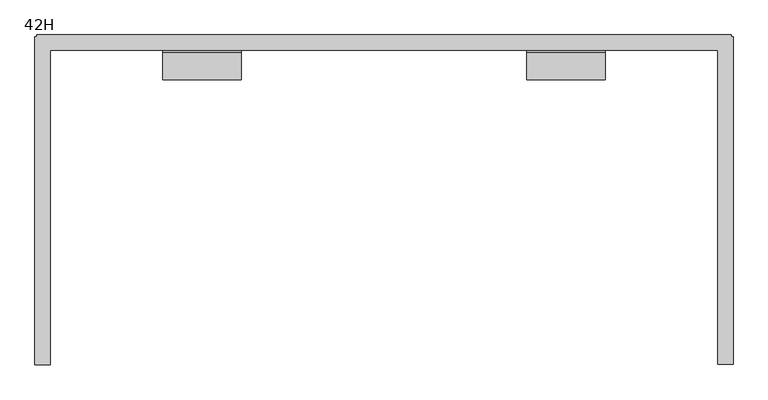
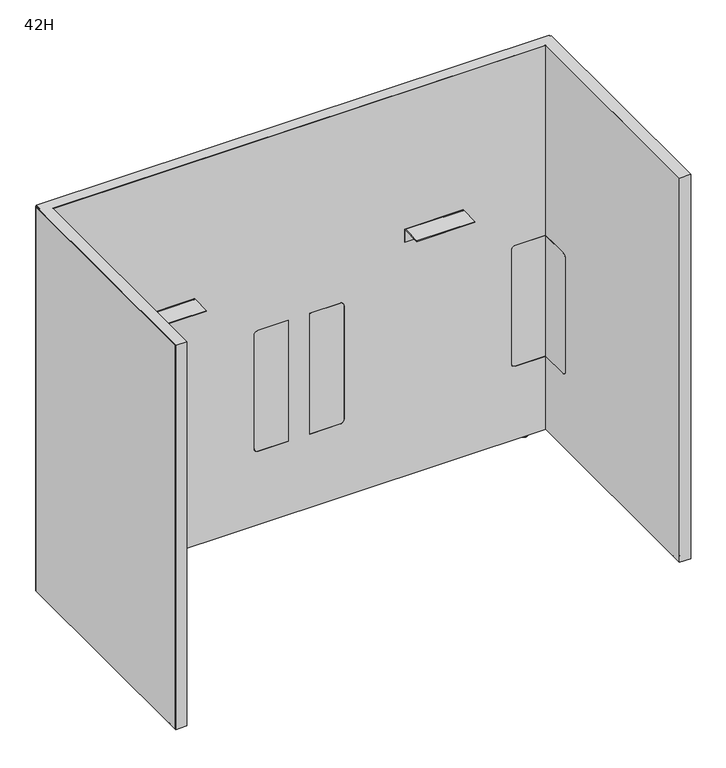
"""IFC4 building model written with IfcOpenShell, lengths in millimetres: furniture geometry, Steelcase - Answer Solution - Boundary Screen - L Return - Split : 42H."""

from ifc_helpers import new_model, si_unit, point, frame, frame_2d, origin, place, context, project, spatial, polyline, circle_curve, ellipse_curve, trimmed, segment, composite_curve, outline, extrude, faceted_brep, source, transform, mapped, element, save
from ifc_brep_helpers import plane_surface, cylinder_surface, revolved_surface, advanced_brep


def furniture_42h_03005b01(model_context):
    return source(origin(), model_context, "Body", "SolidModel", [
        extrude(outline(composite_curve([segment(polyline([(-109.3501471, 549.6162029), (-29.0550397, 549.6162029), (-29.0550397, 213.7762137), (-109.3501471, 213.7762137)]), True, "CONTINUOUS"), segment(trimmed(circle_curve(frame_2d((-109.3501471, 223.9362137)), 10.16), [point((-109.3501471, 213.7762137))], [point((-119.5101471, 223.9362137))], False, "CARTESIAN"), True, "CONTINUOUS"), segment(polyline([(-119.5101471, 223.9362137), (-119.5101471, 539.4562029)]), True, "CONTINUOUS"), segment(trimmed(circle_curve(frame_2d((-109.3501471, 539.4562029)), 10.16), [point((-119.5101471, 539.4562029))], [point((-109.3501471, 549.6162029))], False, "CARTESIAN"), True, "CONTINUOUS")], self_intersect=False)), frame((-418.5209652, 0.0, 0.0), z_axis=(1.0, 0.0, 0.0), x_axis=(0.0, 1.0, 0.0)), (0.0, 0.0, 1.0), 0.6401544),
        extrude(outline(composite_curve([segment(polyline([(-109.3501471, 549.6162029), (-29.0550397, 549.6162029), (-29.0550397, 213.7762137), (-109.3501471, 213.7762137)]), True, "CONTINUOUS"), segment(trimmed(circle_curve(frame_2d((-109.3501471, 223.9362137)), 10.16), [point((-109.3501471, 213.7762137))], [point((-119.5101471, 223.9362137))], False, "CARTESIAN"), True, "CONTINUOUS"), segment(polyline([(-119.5101471, 223.9362137), (-119.5101471, 539.4562029)]), True, "CONTINUOUS"), segment(trimmed(circle_curve(frame_2d((-109.3501471, 539.4562029)), 10.16), [point((-119.5101471, 539.4562029))], [point((-109.3501471, 549.6162029))], False, "CARTESIAN"), True, "CONTINUOUS")], self_intersect=False)), frame((877.5191891, 0.0, 0.0), z_axis=(1.0, 0.0, 0.0), x_axis=(0.0, 1.0, 0.0)), (0.0, 0.0, 1.0), 0.6401544),
        advanced_brep(
        [(892.3672074, -600.4136072, 0.0), (899.3216144, -600.4136072, 0.0), (885.4128003, -600.4136072, 0.0), (900.7762685, -600.4136072, 1.2700001), (883.9581463, -600.4136072, 1.2700001), (900.7762685, -600.4136072, 2.9673238), (883.9581463, -600.4136072, 2.9673238), (901.7427877, -600.4136072, 2.9673238), (882.991627, -600.4136072, 2.9673238), (901.7427877, -600.4136072, 9.9059849), (882.991627, -600.4136072, 9.9059849), (892.3672074, -600.4136072, 9.9059849)],
        [
            (0, 1),
            (1, 2, circle_curve(frame((892.3672074, -600.4136072, 0.0), z_axis=(0.0, 0.0, -1.0), x_axis=(1.0, 0.0, 0.0)), 6.9544071)),
            (2, 0),
            (2, 1, circle_curve(frame((892.3672074, -600.4136072, 0.0), z_axis=(0.0, 0.0, -1.0), x_axis=(1.0, 0.0, 0.0)), 6.9544071)),
            (1, 3, circle_curve(frame((899.4945484, -600.4136072, 1.2700001), z_axis=(0.0, -1.0, 0.0), x_axis=(0.0, 0.0, 1.0)), 1.2817201)),
            (3, 4, circle_curve(frame((892.3672074, -600.4136072, 1.2700001), z_axis=(0.0, 0.0, -1.0), x_axis=(1.0, 0.0, 0.0)), 8.4090611)),
            (4, 2, circle_curve(frame((885.2398663, -600.4136072, 1.2700001), z_axis=(0.0, -1.0, 0.0), x_axis=(0.0, 0.0, 1.0)), 1.2817201)),
            (4, 3, circle_curve(frame((892.3672074, -600.4136072, 1.2700001), z_axis=(0.0, 0.0, -1.0), x_axis=(1.0, 0.0, 0.0)), 8.4090611)),
            (3, 5),
            (5, 6, circle_curve(frame((892.3672074, -600.4136072, 2.9673238), z_axis=(0.0, 0.0, -1.0), x_axis=(1.0, 0.0, 0.0)), 8.4090611)),
            (6, 4),
            (6, 5, circle_curve(frame((892.3672074, -600.4136072, 2.9673238), z_axis=(0.0, 0.0, -1.0), x_axis=(1.0, 0.0, 0.0)), 8.4090611)),
            (5, 7),
            (7, 8, circle_curve(frame((892.3672074, -600.4136072, 2.9673238), z_axis=(0.0, 0.0, -1.0), x_axis=(1.0, 0.0, 0.0)), 9.3755804)),
            (8, 6),
            (8, 7, circle_curve(frame((892.3672074, -600.4136072, 2.9673238), z_axis=(0.0, 0.0, -1.0), x_axis=(1.0, 0.0, 0.0)), 9.3755804)),
            (7, 9),
            (9, 10, circle_curve(frame((892.3672074, -600.4136072, 9.9059849), z_axis=(0.0, 0.0, -1.0), x_axis=(1.0, 0.0, 0.0)), 9.3755804)),
            (10, 8),
            (10, 9, circle_curve(frame((892.3672074, -600.4136072, 9.9059849), z_axis=(0.0, 0.0, -1.0), x_axis=(1.0, 0.0, 0.0)), 9.3755804)),
            (9, 11),
            (11, 10),
        ],
        [
            plane_surface(frame((892.3672074, -600.4136072, 0.0), z_axis=(0.0, 0.0, -1.0), x_axis=(1.0, 0.0, 0.0))),
            revolved_surface(trimmed(ellipse_curve(frame((899.4945484, -600.4136072, 1.2700001), z_axis=(0.0, 1.0, 0.0), x_axis=(0.0, 0.0, 1.0)), 1.2817201, 1.2817201), [point((900.7762685, -600.4136072, 1.2700001))], [point((899.3216144, -600.4136072, 0.0))], True, "CARTESIAN"), (892.3672074, -600.4136072, 9.9059849), (0.0, 0.0, -1.0)),
            cylinder_surface(frame((892.3672074, -600.4136072, 9.9059849), z_axis=(0.0, 0.0, -1.0), x_axis=(1.0, 0.0, 0.0)), 8.4090611),
            plane_surface(frame((892.3672074, -600.4136072, 2.9673238), z_axis=(0.0, 0.0, -1.0), x_axis=(1.0, 0.0, 0.0))),
            cylinder_surface(frame((892.3672074, -600.4136072, 9.9059849), z_axis=(0.0, 0.0, -1.0), x_axis=(1.0, 0.0, 0.0)), 9.3755804),
            plane_surface(frame((892.3672074, -600.4136072, 9.9059849), z_axis=(0.0, 0.0, 1.0), x_axis=(1.0, 0.0, 0.0))),
        ],
        [
            (0, [[1, 2, 3]]),
            (0, [[-3, 4, -1]]),
            (1, [[-2, 5, 6, 7]]),
            (1, [[-4, -7, 8, -5]]),
            (2, [[-6, 9, 10, 11]]),
            (2, [[-8, -11, 12, -9]]),
            (3, [[-10, 13, 14, 15]]),
            (3, [[-12, -15, 16, -13]]),
            (4, [[-14, 17, 18, 19]]),
            (4, [[-16, -19, 20, -17]]),
            (5, [[-18, 21, 22]]),
            (5, [[-20, -22, -21]]),
        ],
    ),
        advanced_brep(
        [(-425.774422, -601.4042444, 0.0), (-439.6832361, -601.4042444, 0.0), (-432.7288291, -601.4042444, 0.0), (-424.319768, -601.4042444, 1.2700001), (-441.1378902, -601.4042444, 1.2700001), (-424.319768, -601.4042444, 2.9673238), (-441.1378902, -601.4042444, 2.9673238), (-423.3532487, -601.4042444, 2.9673238), (-442.1044095, -601.4042444, 2.9673238), (-423.3532487, -601.4042444, 9.9059849), (-442.1044095, -601.4042444, 9.9059849), (-432.7288291, -601.4042444, 9.9059849)],
        [
            (0, 1, circle_curve(frame((-432.7288291, -601.4042444, 0.0), z_axis=(0.0, 0.0, -1.0), x_axis=(-1.0, 0.0, 0.0)), 6.9544071)),
            (1, 2),
            (2, 0),
            (1, 0, circle_curve(frame((-432.7288291, -601.4042444, 0.0), z_axis=(0.0, 0.0, -1.0), x_axis=(-1.0, 0.0, 0.0)), 6.9544071)),
            (3, 4, circle_curve(frame((-432.7288291, -601.4042444, 1.2700001), z_axis=(0.0, 0.0, -1.0), x_axis=(-1.0, 0.0, 0.0)), 8.4090611)),
            (4, 1, circle_curve(frame((-439.8561701, -601.4042444, 1.2700001), z_axis=(0.0, -1.0, 0.0), x_axis=(0.0, 0.0, 1.0)), 1.2817201)),
            (0, 3, circle_curve(frame((-425.6014881, -601.4042444, 1.2700001), z_axis=(0.0, -1.0, 0.0), x_axis=(0.0, 0.0, 1.0)), 1.2817201)),
            (4, 3, circle_curve(frame((-432.7288291, -601.4042444, 1.2700001), z_axis=(0.0, 0.0, -1.0), x_axis=(-1.0, 0.0, 0.0)), 8.4090611)),
            (5, 6, circle_curve(frame((-432.7288291, -601.4042444, 2.9673238), z_axis=(0.0, 0.0, -1.0), x_axis=(-1.0, 0.0, 0.0)), 8.4090611)),
            (6, 4),
            (3, 5),
            (6, 5, circle_curve(frame((-432.7288291, -601.4042444, 2.9673238), z_axis=(0.0, 0.0, -1.0), x_axis=(-1.0, 0.0, 0.0)), 8.4090611)),
            (7, 8, circle_curve(frame((-432.7288291, -601.4042444, 2.9673238), z_axis=(0.0, 0.0, -1.0), x_axis=(-1.0, 0.0, 0.0)), 9.3755804)),
            (8, 6),
            (5, 7),
            (8, 7, circle_curve(frame((-432.7288291, -601.4042444, 2.9673238), z_axis=(0.0, 0.0, -1.0), x_axis=(-1.0, 0.0, 0.0)), 9.3755804)),
            (9, 10, circle_curve(frame((-432.7288291, -601.4042444, 9.9059849), z_axis=(0.0, 0.0, -1.0), x_axis=(-1.0, 0.0, 0.0)), 9.3755804)),
            (10, 8),
            (7, 9),
            (10, 9, circle_curve(frame((-432.7288291, -601.4042444, 9.9059849), z_axis=(0.0, 0.0, -1.0), x_axis=(-1.0, 0.0, 0.0)), 9.3755804)),
            (11, 10),
            (9, 11),
        ],
        [
            plane_surface(frame((-432.7288291, -601.4042444, 0.0), z_axis=(0.0, 0.0, -1.0), x_axis=(-1.0, 0.0, 0.0))),
            revolved_surface(trimmed(ellipse_curve(frame((-439.8561701, -601.4042444, 1.2700001), z_axis=(0.0, 1.0, 0.0), x_axis=(0.0, 0.0, 1.0)), 1.2817201, 1.2817201), [point((-439.6832361, -601.4042444, 0.0))], [point((-441.1378902, -601.4042444, 1.2700001))], True, "CARTESIAN"), (-432.7288291, -601.4042444, 9.9059849), (0.0, 0.0, 1.0)),
            cylinder_surface(frame((-432.7288291, -601.4042444, 9.9059849), z_axis=(0.0, 0.0, 1.0), x_axis=(-1.0, 0.0, 0.0)), 8.4090611),
            plane_surface(frame((-432.7288291, -601.4042444, 2.9673238), z_axis=(0.0, 0.0, -1.0), x_axis=(-1.0, 0.0, 0.0))),
            cylinder_surface(frame((-432.7288291, -601.4042444, 9.9059849), z_axis=(0.0, 0.0, 1.0), x_axis=(-1.0, 0.0, 0.0)), 9.3755804),
            plane_surface(frame((-432.7288291, -601.4042444, 9.9059849), z_axis=(0.0, 0.0, 1.0), x_axis=(-1.0, 0.0, 0.0))),
        ],
        [
            (0, [[1, 2, 3]]),
            (0, [[4, -3, -2]]),
            (1, [[5, 6, -1, 7]]),
            (1, [[8, -7, -4, -6]]),
            (2, [[9, 10, -5, 11]]),
            (2, [[12, -11, -8, -10]]),
            (3, [[13, 14, -9, 15]]),
            (3, [[16, -15, -12, -14]]),
            (4, [[17, 18, -13, 19]]),
            (4, [[20, -19, -16, -18]]),
            (5, [[21, -17, 22]]),
            (5, [[-22, -20, -21]]),
        ],
    ),
        faceted_brep([(903.9531179, 0.0, 1077.722), (903.9531179, 0.0, 9.9059849), (902.9621491, 0.0, 9.9059849), (902.9621491, 0.0, 1076.742118), (-443.3237709, 0.0, 1076.742118), (-443.3237709, 0.0, 9.9059849), (-444.3147397, 0.0, 9.9059849), (-444.3147397, 0.0, 1077.722), (-444.3147397, -29.6898332, 9.9059849), (-443.3237709, -29.6898332, 9.9059849), (-443.3237709, -29.6898332, 1076.742118), (-444.3147397, -29.6898332, 1076.742118), (902.9621491, -29.6898332, 1076.742118), (902.9621491, -29.6898332, 9.9059849), (903.9531179, -29.6898332, 9.9059849), (903.9531179, -29.6898332, 1076.742118), (-417.8808109, -29.6898332, 1077.722), (-417.8808109, -29.6898332, 1076.742118), (877.5191891, -29.6898332, 1076.742118), (877.5191891, -29.6898332, 1077.722), (903.9531179, -3.2625916, 1077.722), (903.9531179, -3.2625916, 9.9059849), (903.9531179, -4.252647, 9.9059849), (903.9531179, -4.252647, 1076.742118), (907.2152256, -3.2625916, 9.9059849), (907.2152256, -4.252647, 9.9059849), (902.9621491, -4.252647, 9.9059849), (877.5191891, -4.252647, 9.9059849), (877.5191891, -3.2625916, 9.9059849), (902.9621491, -3.2625916, 9.9059849), (-444.3147397, -3.2625916, 9.9059849), (-444.3147397, -3.2625916, 1077.722), (-444.3147397, -4.252647, 1076.742118), (-444.3147397, -4.252647, 9.9059849), (-447.5768473, -3.2625916, 1077.722), (-447.5768473, -640.2804704, 1077.722), (-417.8808109, -640.2804704, 1077.722), (877.5191891, -639.2898332, 1077.722), (907.2152256, -639.2898332, 1077.722), (907.2152256, -3.2625916, 1077.722), (902.9621491, -3.2625916, 1076.742118), (902.9621491, -4.252647, 1076.742118), (877.5191891, -3.2625916, 1076.742118), (877.5191891, -4.252647, 1076.742118), (907.2152256, -4.252647, 1076.742118), (907.2152256, -638.299196, 1076.742118), (877.5191891, -638.299196, 1076.742118), (-417.8808109, -639.2898332, 1076.742118), (-447.5768473, -639.2898332, 1076.742118), (-447.5768473, -4.252647, 1076.742118), (-443.3237709, -4.252647, 1076.742118), (-417.8808109, -4.252647, 1076.742118), (-417.8808109, -3.2625916, 1076.742118), (-443.3237709, -3.2625916, 1076.742118), (-443.3237709, -3.2625916, 9.9059849), (-443.3237709, -4.252647, 9.9059849), (-417.8808109, -3.2625916, 9.9059849), (-417.8808109, -4.252647, 9.9059849), (-447.5768473, -4.252647, 9.9059849), (-447.5768473, -3.2625916, 9.9059849), (-417.8808109, -640.2804704, 9.9059849), (-417.8808109, -639.2898332, 9.9059849), (-447.5768473, -639.2898332, 9.9059849), (-447.5768473, -640.2804704, 9.9059849), (877.5191891, -638.299196, 9.9059849), (877.5191891, -639.2898332, 9.9059849), (907.2152256, -639.2898332, 9.9059849), (907.2152256, -638.299196, 9.9059849)], [[[0, 1, 2, 3, 4, 5, 6, 7]], [[8, 9, 10, 11]], [[12, 13, 14, 15]], [[16, 17, 18, 19]], [[1, 0, 20, 21]], [[15, 14, 22, 23]], [[2, 1, 21, 24, 25, 22, 14, 13, 26, 27, 28, 29]], [[7, 6, 30, 31]], [[8, 11, 32, 33]], [[0, 7, 31, 34, 35, 36, 16, 19, 37, 38, 39, 20]], [[3, 2, 29, 40]], [[13, 12, 41, 26]], [[4, 3, 40, 42, 43, 41, 12, 15, 23, 44, 45, 46, 18, 17, 47, 48, 49, 32, 11, 10, 50, 51, 52, 53]], [[5, 4, 53, 54]], [[10, 9, 55, 50]], [[6, 5, 54, 56, 57, 55, 9, 8, 33, 58, 59, 30]], [[36, 60, 61, 47, 17, 16]], [[51, 57, 56, 52]], [[35, 34, 59, 58, 49, 48, 62, 63]], [[56, 54, 53, 52]], [[59, 34, 31, 30]], [[57, 51, 50, 55]], [[49, 58, 33, 32]], [[47, 61, 62, 48]], [[61, 60, 63, 62]], [[60, 36, 35, 63]], [[28, 27, 43, 42]], [[46, 64, 65, 37, 19, 18]], [[38, 66, 67, 45, 44, 25, 24, 39]], [[29, 28, 42, 40]], [[39, 24, 21, 20]], [[43, 27, 26, 41]], [[25, 44, 23, 22]], [[64, 46, 45, 67]], [[65, 64, 67, 66]], [[37, 65, 66, 38]]]),
        advanced_brep(
        [(-370.386307, -14.8449166, 9.9059849), (-370.386307, -5.9309607, 9.9059849), (-370.386307, -23.7588726, 9.9059849), (-370.386307, -5.9309607, 2.9673238), (-370.386307, -23.7588726, 2.9673238), (-370.386307, -6.8982978, 2.9673238), (-370.386307, -22.7915354, 2.9673238), (-370.386307, -6.8982978, 1.6569081), (-370.386307, -22.7915354, 1.6569081), (-370.386307, -8.5552059, 0.0), (-370.386307, -21.1346274, 0.0), (-370.386307, -14.8449166, 0.0)],
        [
            (0, 1),
            (1, 2, circle_curve(frame((-370.386307, -14.8449166, 9.9059849), z_axis=(0.0, 0.0, 1.0), x_axis=(0.0, 1.0, 0.0)), 8.913956)),
            (2, 0),
            (2, 1, circle_curve(frame((-370.386307, -14.8449166, 9.9059849), z_axis=(0.0, 0.0, 1.0), x_axis=(0.0, 1.0, 0.0)), 8.913956)),
            (1, 3),
            (3, 4, circle_curve(frame((-370.386307, -14.8449166, 2.9673238), z_axis=(0.0, 0.0, 1.0), x_axis=(0.0, 1.0, 0.0)), 8.913956)),
            (4, 2),
            (4, 3, circle_curve(frame((-370.386307, -14.8449166, 2.9673238), z_axis=(0.0, 0.0, 1.0), x_axis=(0.0, 1.0, 0.0)), 8.913956)),
            (3, 5),
            (5, 6, circle_curve(frame((-370.386307, -14.8449166, 2.9673238), z_axis=(0.0, 0.0, 1.0), x_axis=(0.0, 1.0, 0.0)), 7.9466188)),
            (6, 4),
            (6, 5, circle_curve(frame((-370.386307, -14.8449166, 2.9673238), z_axis=(0.0, 0.0, 1.0), x_axis=(0.0, 1.0, 0.0)), 7.9466188)),
            (5, 7),
            (7, 8, circle_curve(frame((-370.386307, -14.8449166, 1.6569081), z_axis=(0.0, 0.0, 1.0), x_axis=(0.0, 1.0, 0.0)), 7.9466188)),
            (8, 6),
            (8, 7, circle_curve(frame((-370.386307, -14.8449166, 1.6569081), z_axis=(0.0, 0.0, 1.0), x_axis=(0.0, 1.0, 0.0)), 7.9466188)),
            (7, 9, circle_curve(frame((-370.386307, -8.5552059, 1.6569081), z_axis=(-1.0, 0.0, 0.0), x_axis=(0.0, 1.0, 0.0)), 1.6569081)),
            (9, 10, circle_curve(frame((-370.386307, -14.8449166, 0.0), z_axis=(0.0, 0.0, 1.0), x_axis=(0.0, 1.0, 0.0)), 6.2897107)),
            (10, 8, circle_curve(frame((-370.386307, -21.1346274, 1.6569081), z_axis=(-1.0, 0.0, 0.0), x_axis=(0.0, -1.0, 0.0)), 1.6569081)),
            (10, 9, circle_curve(frame((-370.386307, -14.8449166, 0.0), z_axis=(0.0, 0.0, 1.0), x_axis=(0.0, 1.0, 0.0)), 6.2897107)),
            (9, 11),
            (11, 10),
        ],
        [
            plane_surface(frame((-370.386307, -14.8449166, 9.9059849), z_axis=(0.0, 0.0, 1.0), x_axis=(0.0, 1.0, 0.0))),
            cylinder_surface(frame((-370.386307, -14.8449166, 9.9059849), z_axis=(0.0, 0.0, 1.0), x_axis=(0.0, 1.0, 0.0)), 8.913956),
            plane_surface(frame((-370.386307, -14.8449166, 2.9673238), z_axis=(0.0, 0.0, -1.0), x_axis=(0.0, 1.0, 0.0))),
            cylinder_surface(frame((-370.386307, -14.8449166, 9.9059849), z_axis=(0.0, 0.0, 1.0), x_axis=(0.0, 1.0, 0.0)), 7.9466188),
            revolved_surface(trimmed(ellipse_curve(frame((-370.386307, -8.5552059, 1.6569081), z_axis=(1.0, 0.0, 0.0), x_axis=(0.0, 1.0, 0.0)), 1.6569081, 1.6569081), [point((-370.386307, -8.5552059, 0.0))], [point((-370.386307, -6.8982978, 1.6569081))], True, "CARTESIAN"), (-370.386307, -14.8449166, 9.9059849), (0.0, 0.0, 1.0)),
            plane_surface(frame((-370.386307, -14.8449166, 0.0), z_axis=(0.0, 0.0, -1.0), x_axis=(0.0, 1.0, 0.0))),
        ],
        [
            (0, [[1, 2, 3]]),
            (0, [[-3, 4, -1]]),
            (1, [[-2, 5, 6, 7]]),
            (1, [[-4, -7, 8, -5]]),
            (2, [[-6, 9, 10, 11]]),
            (2, [[-8, -11, 12, -9]]),
            (3, [[-10, 13, 14, 15]]),
            (3, [[-12, -15, 16, -13]]),
            (4, [[-14, 17, 18, 19]]),
            (4, [[-16, -19, 20, -17]]),
            (5, [[-18, 21, 22]]),
            (5, [[-20, -22, -21]]),
        ],
    ),
        extrude(outline(composite_curve([segment(polyline([(-86.8398151, 696.4680019), (-86.8398151, 698.5), (-34.9450855, 698.5)]), True, "CONTINUOUS"), segment(trimmed(circle_curve(frame_2d((-34.9450855, 693.2447477)), 5.2552523), [point((-34.9450855, 698.5))], [point((-29.6898332, 693.2447477))], False, "CARTESIAN"), True, "CONTINUOUS"), segment(polyline([(-29.6898332, 693.2447477), (-29.6898332, 660.4), (-31.7218162, 660.4), (-31.7218162, 693.0058743)]), True, "CONTINUOUS"), segment(trimmed(circle_curve(frame_2d((-35.1839438, 693.0058743)), 3.4621276), [point((-31.7218162, 693.0058743))], [point((-35.1839438, 696.4680019))], True, "CARTESIAN"), True, "CONTINUOUS"), segment(polyline([(-35.1839438, 696.4680019), (-86.8398151, 696.4680019)]), True, "CONTINUOUS")], self_intersect=False)), frame((506.4762371, 0.0, 0.0), z_axis=(1.0, 0.0, 0.0), x_axis=(0.0, 1.0, 0.0)), (0.0, 0.0, 1.0), 152.4000969),
        extrude(outline(composite_curve([segment(polyline([(-86.8398151, 696.4680019), (-86.8398151, 698.5), (-34.9450855, 698.5)]), True, "CONTINUOUS"), segment(trimmed(circle_curve(frame_2d((-34.9450855, 693.2447477)), 5.2552523), [point((-34.9450855, 698.5))], [point((-29.6898332, 693.2447477))], False, "CARTESIAN"), True, "CONTINUOUS"), segment(polyline([(-29.6898332, 693.2447477), (-29.6898332, 660.4), (-31.7218162, 660.4), (-31.7218162, 693.0058743)]), True, "CONTINUOUS"), segment(trimmed(circle_curve(frame_2d((-35.1839438, 693.0058743)), 3.4621276), [point((-31.7218162, 693.0058743))], [point((-35.1839438, 696.4680019))], True, "CARTESIAN"), True, "CONTINUOUS"), segment(polyline([(-35.1839438, 696.4680019), (-86.8398151, 696.4680019)]), True, "CONTINUOUS")], self_intersect=False)), frame((-199.2364763, 0.0, 0.0), z_axis=(1.0, 0.0, 0.0), x_axis=(0.0, 1.0, 0.0)), (0.0, 0.0, 1.0), 152.4000969),
        advanced_brep(
        [(830.0246853, -23.7588726, 9.9059849), (830.0246853, -5.9309607, 9.9059849), (830.0246853, -14.8449166, 9.9059849), (830.0246853, -23.7588726, 2.9673238), (830.0246853, -5.9309607, 2.9673238), (830.0246853, -22.7915354, 2.9673238), (830.0246853, -6.8982978, 2.9673238), (830.0246853, -22.7915354, 1.6569081), (830.0246853, -6.8982978, 1.6569081), (830.0246853, -21.1346274, 0.0), (830.0246853, -8.5552059, 0.0), (830.0246853, -14.8449166, 0.0)],
        [
            (0, 1, circle_curve(frame((830.0246853, -14.8449166, 9.9059849), z_axis=(0.0, 0.0, 1.0), x_axis=(0.0, 1.0, 0.0)), 8.913956)),
            (1, 2),
            (2, 0),
            (1, 0, circle_curve(frame((830.0246853, -14.8449166, 9.9059849), z_axis=(0.0, 0.0, 1.0), x_axis=(0.0, 1.0, 0.0)), 8.913956)),
            (3, 4, circle_curve(frame((830.0246853, -14.8449166, 2.9673238), z_axis=(0.0, 0.0, 1.0), x_axis=(0.0, 1.0, 0.0)), 8.913956)),
            (4, 1),
            (0, 3),
            (4, 3, circle_curve(frame((830.0246853, -14.8449166, 2.9673238), z_axis=(0.0, 0.0, 1.0), x_axis=(0.0, 1.0, 0.0)), 8.913956)),
            (5, 6, circle_curve(frame((830.0246853, -14.8449166, 2.9673238), z_axis=(0.0, 0.0, 1.0), x_axis=(0.0, 1.0, 0.0)), 7.9466188)),
            (6, 4),
            (3, 5),
            (6, 5, circle_curve(frame((830.0246853, -14.8449166, 2.9673238), z_axis=(0.0, 0.0, 1.0), x_axis=(0.0, 1.0, 0.0)), 7.9466188)),
            (7, 8, circle_curve(frame((830.0246853, -14.8449166, 1.6569081), z_axis=(0.0, 0.0, 1.0), x_axis=(0.0, 1.0, 0.0)), 7.9466188)),
            (8, 6),
            (5, 7),
            (8, 7, circle_curve(frame((830.0246853, -14.8449166, 1.6569081), z_axis=(0.0, 0.0, 1.0), x_axis=(0.0, 1.0, 0.0)), 7.9466188)),
            (9, 10, circle_curve(frame((830.0246853, -14.8449166, 0.0), z_axis=(0.0, 0.0, 1.0), x_axis=(0.0, 1.0, 0.0)), 6.2897107)),
            (10, 8, circle_curve(frame((830.0246853, -8.5552059, 1.6569081), z_axis=(1.0, 0.0, 0.0), x_axis=(0.0, 1.0, 0.0)), 1.6569081)),
            (7, 9, circle_curve(frame((830.0246853, -21.1346274, 1.6569081), z_axis=(1.0, 0.0, 0.0), x_axis=(0.0, -1.0, 0.0)), 1.6569081)),
            (10, 9, circle_curve(frame((830.0246853, -14.8449166, 0.0), z_axis=(0.0, 0.0, 1.0), x_axis=(0.0, 1.0, 0.0)), 6.2897107)),
            (11, 10),
            (9, 11),
        ],
        [
            plane_surface(frame((830.0246853, -14.8449166, 9.9059849), z_axis=(0.0, 0.0, 1.0), x_axis=(0.0, 1.0, 0.0))),
            cylinder_surface(frame((830.0246853, -14.8449166, 9.9059849), z_axis=(0.0, 0.0, -1.0), x_axis=(0.0, 1.0, 0.0)), 8.913956),
            plane_surface(frame((830.0246853, -14.8449166, 2.9673238), z_axis=(0.0, 0.0, -1.0), x_axis=(0.0, 1.0, 0.0))),
            cylinder_surface(frame((830.0246853, -14.8449166, 9.9059849), z_axis=(0.0, 0.0, -1.0), x_axis=(0.0, 1.0, 0.0)), 7.9466188),
            revolved_surface(trimmed(ellipse_curve(frame((830.0246853, -8.5552059, 1.6569081), z_axis=(-1.0, 0.0, 0.0), x_axis=(0.0, 1.0, 0.0)), 1.6569081, 1.6569081), [point((830.0246853, -6.8982978, 1.6569081))], [point((830.0246853, -8.5552059, 0.0))], True, "CARTESIAN"), (830.0246853, -14.8449166, 9.9059849), (0.0, 0.0, -1.0)),
            plane_surface(frame((830.0246853, -14.8449166, 0.0), z_axis=(0.0, 0.0, -1.0), x_axis=(0.0, 1.0, 0.0))),
        ],
        [
            (0, [[1, 2, 3]]),
            (0, [[4, -3, -2]]),
            (1, [[5, 6, -1, 7]]),
            (1, [[8, -7, -4, -6]]),
            (2, [[9, 10, -5, 11]]),
            (2, [[12, -11, -8, -10]]),
            (3, [[13, 14, -9, 15]]),
            (3, [[16, -15, -12, -14]]),
            (4, [[17, 18, -13, 19]]),
            (4, [[20, -19, -16, -18]]),
            (5, [[21, -17, 22]]),
            (5, [[-22, -20, -21]]),
        ],
    ),
        advanced_brep(
        [(-443.3237709, 0.0, 1076.742118), (902.9621491, 0.0, 1076.742118), (902.9621491, 0.0, 9.9059849), (-443.3237709, 0.0, 9.9059849), (201.5038947, -29.0550397, 549.6162029), (121.849997, -29.0550397, 549.6162029), (111.689997, -29.0550397, 539.4562029), (111.689997, -29.0550397, 223.9362137), (121.849997, -29.0550397, 213.7762137), (201.5038947, -29.0550397, 213.7762137), (347.9483813, -29.0550397, 539.4562029), (337.7883813, -29.0550397, 549.6162029), (258.1344836, -29.0550397, 549.6162029), (258.1344836, -29.0550397, 213.7762137), (337.7883813, -29.0550397, 213.7762137), (347.9483813, -29.0550397, 223.9362137), (-418.5209652, -29.0550397, 549.6162029), (-418.5209652, -29.0550397, 213.7762137), (-337.9725485, -29.0550397, 213.7762137), (-327.8125485, -29.0550397, 223.9362137), (-327.8125485, -29.0550397, 539.4562029), (-337.9725485, -29.0550397, 549.6162029), (878.1593435, -29.0550397, 213.7762137), (878.1593435, -29.0550397, 549.6162029), (797.6109268, -29.0550397, 549.6162029), (787.4509268, -29.0550397, 539.4562029), (787.4509268, -29.0550397, 223.9362137), (797.6109268, -29.0550397, 213.7762137), (-417.8808109, -639.2898332, 1076.742118), (-417.8808109, -639.2898332, 9.9059849), (-417.8808109, -29.6898332, 9.9059849), (-417.8808109, -29.6898332, 213.7762137), (-417.8808109, -109.3501471, 213.7762137), (-417.8808109, -119.5101471, 223.9362137), (-417.8808109, -119.5101471, 539.4562029), (-417.8808109, -109.3501471, 549.6162029), (-417.8808109, -29.6898332, 549.6162029), (-417.8808109, -29.6898332, 1076.742118), (-447.5768473, -639.2898332, 1076.742118), (-447.5768473, -4.252647, 1076.742118), (-447.5768473, -4.252647, 9.9059849), (-447.5768473, -639.2898332, 9.9059849), (877.5191891, -29.6898332, 1076.742118), (877.5191891, -638.299196, 1076.742118), (907.2152256, -638.299196, 1076.742118), (907.2152256, -4.252647, 1076.742118), (902.9621491, -4.252647, 1076.742118), (-443.3237709, -4.252647, 1076.742118), (-443.3237709, -4.252647, 9.9059849), (902.9621491, -4.252647, 9.9059849), (907.2152256, -4.252647, 9.9059849), (907.2152256, -638.299196, 9.9059849), (877.5191891, -638.299196, 9.9059849), (877.5191891, -29.6898332, 9.9059849), (-418.5209652, -119.5101471, 539.4562029), (-418.5209652, -109.3501471, 549.6162029), (-418.5209652, -119.5101471, 223.9362137), (-418.5209652, -109.3501471, 213.7762137), (-337.9725485, -29.6898332, 213.7762137), (-337.9725485, -29.6898332, 549.6162029), (797.6109268, -29.6898332, 213.7762137), (787.4509268, -29.6898332, 223.9362137), (787.4509268, -29.6898332, 539.4562029), (797.6109268, -29.6898332, 549.6162029), (877.5191891, -29.6898332, 549.6162029), (-327.8125485, -29.6898332, 539.4562029), (-327.8125485, -29.6898332, 223.9362137), (877.5191891, -29.6898332, 213.7762137), (121.849997, -29.6898332, 549.6162029), (201.5038947, -29.6898332, 549.6162029), (201.5038947, -29.6898332, 213.7762137), (121.849997, -29.6898332, 213.7762137), (111.689997, -29.6898332, 223.9362137), (111.689997, -29.6898332, 539.4562029), (337.7883813, -29.6898332, 549.6162029), (347.9483813, -29.6898332, 539.4562029), (347.9483813, -29.6898332, 223.9362137), (337.7883813, -29.6898332, 213.7762137), (258.1344836, -29.6898332, 213.7762137), (258.1344836, -29.6898332, 549.6162029), (878.1593435, -109.3501471, 549.6162029), (877.5191891, -109.3501471, 549.6162029), (878.1593435, -109.3501471, 213.7762137), (878.1593435, -119.5101471, 223.9362137), (878.1593435, -119.5101471, 539.4562029), (877.5191891, -109.3501471, 213.7762137), (877.5191891, -119.5101471, 539.4562029), (877.5191891, -119.5101471, 223.9362137)],
        [
            (0, 1),
            (1, 2),
            (2, 3),
            (3, 0),
            (4, 5),
            (5, 6, circle_curve(frame((121.849997, -29.0550397, 539.4562029), z_axis=(0.0, -1.0, 0.0), x_axis=(0.0, 0.0, 1.0)), 10.16)),
            (6, 7),
            (7, 8, circle_curve(frame((121.849997, -29.0550397, 223.9362137), z_axis=(0.0, -1.0, 0.0), x_axis=(0.0, 0.0, 1.0)), 10.16)),
            (8, 9),
            (9, 4),
            (10, 11, circle_curve(frame((337.7883813, -29.0550397, 539.4562029), z_axis=(0.0, -1.0, 0.0), x_axis=(0.0, 0.0, 1.0)), 10.16)),
            (11, 12),
            (12, 13),
            (13, 14),
            (14, 15, circle_curve(frame((337.7883813, -29.0550397, 223.9362137), z_axis=(0.0, -1.0, 0.0), x_axis=(0.0, 0.0, 1.0)), 10.16)),
            (15, 10),
            (16, 17),
            (17, 18),
            (18, 19, circle_curve(frame((-337.9725485, -29.0550397, 223.9362137), z_axis=(0.0, -1.0, 0.0), x_axis=(0.0, 0.0, 1.0)), 10.16)),
            (19, 20),
            (20, 21, circle_curve(frame((-337.9725485, -29.0550397, 539.4562029), z_axis=(0.0, -1.0, 0.0), x_axis=(0.0, 0.0, 1.0)), 10.16)),
            (21, 16),
            (22, 23),
            (23, 24),
            (24, 25, circle_curve(frame((797.6109268, -29.0550397, 539.4562029), z_axis=(0.0, -1.0, 0.0), x_axis=(0.0, 0.0, 1.0)), 10.16)),
            (25, 26),
            (26, 27, circle_curve(frame((797.6109268, -29.0550397, 223.9362137), z_axis=(0.0, -1.0, 0.0), x_axis=(0.0, 0.0, 1.0)), 10.16)),
            (27, 22),
            (28, 29),
            (29, 30),
            (30, 31),
            (31, 32),
            (32, 33, circle_curve(frame((-417.8808109, -109.3501471, 223.9362137), z_axis=(-1.0, 0.0, 0.0), x_axis=(0.0, 1.0, 0.0)), 10.16)),
            (33, 34),
            (34, 35, circle_curve(frame((-417.8808109, -109.3501471, 539.4562029), z_axis=(-1.0, 0.0, 0.0), x_axis=(0.0, 1.0, 0.0)), 10.16)),
            (35, 36),
            (36, 37),
            (37, 28),
            (38, 39),
            (39, 40),
            (40, 41),
            (41, 38),
            (38, 28),
            (37, 42),
            (42, 43),
            (43, 44),
            (44, 45),
            (45, 46),
            (46, 1),
            (0, 47),
            (47, 39),
            (47, 48),
            (48, 40),
            (48, 3),
            (2, 49),
            (49, 50),
            (50, 51),
            (51, 52),
            (52, 53),
            (53, 30),
            (29, 41),
            (34, 54),
            (54, 55, circle_curve(frame((-418.5209652, -109.3501471, 539.4562029), z_axis=(-1.0, 0.0, 0.0), x_axis=(0.0, 1.0, 0.0)), 10.16)),
            (55, 35),
            (33, 56),
            (56, 54),
            (32, 57),
            (57, 56, circle_curve(frame((-418.5209652, -109.3501471, 223.9362137), z_axis=(-1.0, 0.0, 0.0), x_axis=(0.0, 1.0, 0.0)), 10.16)),
            (58, 18),
            (17, 57),
            (31, 58),
            (21, 59),
            (59, 36),
            (55, 16),
            (60, 61, circle_curve(frame((797.6109268, -29.6898332, 223.9362137), z_axis=(0.0, 1.0, 0.0), x_axis=(0.0, 0.0, 1.0)), 10.16)),
            (61, 62),
            (62, 63, circle_curve(frame((797.6109268, -29.6898332, 539.4562029), z_axis=(0.0, 1.0, 0.0), x_axis=(0.0, 0.0, 1.0)), 10.16)),
            (63, 64),
            (64, 42),
            (59, 65, circle_curve(frame((-337.9725485, -29.6898332, 539.4562029), z_axis=(0.0, 1.0, 0.0), x_axis=(0.0, 0.0, 1.0)), 10.16)),
            (65, 66),
            (66, 58, circle_curve(frame((-337.9725485, -29.6898332, 223.9362137), z_axis=(0.0, 1.0, 0.0), x_axis=(0.0, 0.0, 1.0)), 10.16)),
            (53, 67),
            (67, 60),
            (68, 69),
            (69, 70),
            (70, 71),
            (71, 72, circle_curve(frame((121.849997, -29.6898332, 223.9362137), z_axis=(0.0, 1.0, 0.0), x_axis=(0.0, 0.0, 1.0)), 10.16)),
            (72, 73),
            (73, 68, circle_curve(frame((121.849997, -29.6898332, 539.4562029), z_axis=(0.0, 1.0, 0.0), x_axis=(0.0, 0.0, 1.0)), 10.16)),
            (74, 75, circle_curve(frame((337.7883813, -29.6898332, 539.4562029), z_axis=(0.0, 1.0, 0.0), x_axis=(0.0, 0.0, 1.0)), 10.16)),
            (75, 76),
            (76, 77, circle_curve(frame((337.7883813, -29.6898332, 223.9362137), z_axis=(0.0, 1.0, 0.0), x_axis=(0.0, 0.0, 1.0)), 10.16)),
            (77, 78),
            (78, 79),
            (79, 74),
            (46, 49),
            (68, 5),
            (4, 69),
            (9, 70),
            (8, 71),
            (7, 72),
            (6, 73),
            (74, 11),
            (10, 75),
            (15, 76),
            (14, 77),
            (13, 78),
            (12, 79),
            (23, 80),
            (80, 81),
            (81, 64),
            (63, 24),
            (82, 83, circle_curve(frame((878.1593435, -109.3501471, 223.9362137), z_axis=(-1.0, 0.0, 0.0), x_axis=(0.0, 1.0, 0.0)), 10.16)),
            (83, 84),
            (84, 80, circle_curve(frame((878.1593435, -109.3501471, 539.4562029), z_axis=(-1.0, 0.0, 0.0), x_axis=(0.0, 1.0, 0.0)), 10.16)),
            (22, 82),
            (27, 60),
            (67, 85),
            (85, 82),
            (26, 61),
            (25, 62),
            (66, 19),
            (65, 20),
            (52, 43),
            (81, 86, circle_curve(frame((877.5191891, -109.3501471, 539.4562029), z_axis=(1.0, 0.0, 0.0), x_axis=(0.0, 1.0, 0.0)), 10.16)),
            (86, 87),
            (87, 85, circle_curve(frame((877.5191891, -109.3501471, 223.9362137), z_axis=(1.0, 0.0, 0.0), x_axis=(0.0, 1.0, 0.0)), 10.16)),
            (44, 51),
            (50, 45),
            (84, 86),
            (83, 87),
        ],
        [
            plane_surface(frame((347.9483813, 0.0, 549.6162029), z_axis=(0.0, 1.0, 0.0), x_axis=(0.0, 0.0, -1.0))),
            plane_surface(frame((347.9483813, -29.0550397, 549.6162029), z_axis=(0.0, -1.0, 0.0), x_axis=(0.0, 0.0, 1.0))),
            plane_surface(frame((-417.8808109, -4.252647, 1076.742118), z_axis=(1.0, 0.0, 0.0), x_axis=(0.0, -1.0, 0.0))),
            plane_surface(frame((-447.5768473, -4.252647, 1076.742118), z_axis=(-1.0, 0.0, 0.0), x_axis=(0.0, 1.0, 0.0))),
            plane_surface(frame((-447.5768473, -639.2898332, 1076.742118), z_axis=(0.0, 0.0, 1.0), x_axis=(1.0, 0.0, 0.0))),
            plane_surface(frame((-447.5768473, -4.252647, 1076.742118), z_axis=(0.0, 1.0, 0.0), x_axis=(1.0, 0.0, 0.0))),
            plane_surface(frame((-447.5768473, -4.252647, 9.9059849), z_axis=(0.0, 0.0, -1.0), x_axis=(1.0, 0.0, 0.0))),
            plane_surface(frame((-447.5768473, -639.2898332, 9.9059849), z_axis=(0.0, -1.0, 0.0), x_axis=(1.0, 0.0, 0.0))),
            revolved_surface(polyline([(-417.88081090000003, -99.1901471, 539.4562029), (-418.5209652, -99.1901471, 539.4562029)]), (830.0246853, -109.3501471, 539.4562029), (1.0, 0.0, 0.0)),
            plane_surface(frame((-447.5768473, -119.5101471, 539.4562029), z_axis=(0.0, 1.0, 0.0), x_axis=(1.0, 0.0, 0.0))),
            revolved_surface(polyline([(-417.88081090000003, -99.1901471, 223.9362137), (-418.5209652, -99.1901471, 223.9362137)]), (830.0246853, -109.3501471, 223.9362137), (1.0, 0.0, 0.0)),
            plane_surface(frame((-447.5768473, -109.3501471, 213.7762137), z_axis=(0.0, 0.0, 1.0), x_axis=(1.0, 0.0, 0.0))),
            plane_surface(frame((-447.5768473, -29.0550397, 549.6162029), z_axis=(0.0, 0.0, -1.0), x_axis=(1.0, 0.0, 0.0))),
            plane_surface(frame((902.9621491, -29.6898332, 1076.742118), z_axis=(0.0, -1.0, 0.0), x_axis=(-1.0, 0.0, 0.0))),
            plane_surface(frame((-443.3237709, 0.0, 9.9059849), z_axis=(-1.0, 0.0, 0.0), x_axis=(0.0, -1.0, 0.0))),
            plane_surface(frame((902.9621491, 0.0, 1076.742118), z_axis=(1.0, 0.0, 0.0), x_axis=(0.0, -1.0, 0.0))),
            plane_surface(frame((201.5038947, 0.0, 549.6162029), z_axis=(0.0, 0.0, -1.0), x_axis=(0.0, -1.0, 0.0))),
            plane_surface(frame((201.5038947, 0.0, 213.7762137), z_axis=(-1.0, 0.0, 0.0), x_axis=(0.0, -1.0, 0.0))),
            plane_surface(frame((121.849997, 0.0, 213.7762137), z_axis=(0.0, 0.0, 1.0), x_axis=(0.0, -1.0, 0.0))),
            revolved_surface(polyline([(121.849997, -29.6898332, 234.0962137), (121.849997, -29.0550397, 234.0962137)]), (121.849997, -29.6898332, 223.9362137), (0.0, -1.0, 0.0)),
            plane_surface(frame((111.689997, 0.0, 539.4562029), z_axis=(1.0, 0.0, 0.0), x_axis=(0.0, -1.0, 0.0))),
            revolved_surface(polyline([(121.849997, -29.6898332, 549.6162029), (121.849997, -29.0550397, 549.6162029)]), (121.849997, -29.6898332, 539.4562029), (0.0, -1.0, 0.0)),
            revolved_surface(polyline([(337.7883813, -29.6898332, 549.6162029), (337.7883813, -29.0550397, 549.6162029)]), (337.7883813, -29.6898332, 539.4562029), (0.0, -1.0, 0.0)),
            plane_surface(frame((347.9483813, 0.0, 223.9362137), z_axis=(-1.0, 0.0, 0.0), x_axis=(0.0, -1.0, 0.0))),
            revolved_surface(polyline([(337.7883813, -29.6898332, 234.0962137), (337.7883813, -29.0550397, 234.0962137)]), (337.7883813, -29.6898332, 223.9362137), (0.0, -1.0, 0.0)),
            plane_surface(frame((258.1344836, 0.0, 213.7762137), z_axis=(0.0, 0.0, 1.0), x_axis=(0.0, -1.0, 0.0))),
            plane_surface(frame((258.1344836, 0.0, 549.6162029), z_axis=(1.0, 0.0, 0.0), x_axis=(0.0, -1.0, 0.0))),
            plane_surface(frame((337.7883813, 0.0, 549.6162029), z_axis=(0.0, 0.0, -1.0), x_axis=(0.0, -1.0, 0.0))),
            plane_surface(frame((878.1593435, 0.0, 549.6162029), z_axis=(0.0, 0.0, -1.0), x_axis=(0.0, -1.0, 0.0))),
            plane_surface(frame((878.1593435, 0.0, 213.7762137), z_axis=(-1.0, 0.0, 0.0), x_axis=(0.0, -1.0, 0.0))),
            plane_surface(frame((797.6109268, 0.0, 213.7762137), z_axis=(0.0, 0.0, 1.0), x_axis=(0.0, -1.0, 0.0))),
            revolved_surface(polyline([(797.6109268, -29.6898332, 234.0962137), (797.6109268, -29.0550397, 234.0962137)]), (797.6109268, -29.6898332, 223.9362137), (0.0, -1.0, 0.0)),
            plane_surface(frame((787.4509268, 0.0, 539.4562029), z_axis=(1.0, 0.0, 0.0), x_axis=(0.0, -1.0, 0.0))),
            revolved_surface(polyline([(797.6109268, -29.6898332, 549.6162029), (797.6109268, -29.0550397, 549.6162029)]), (797.6109268, -29.6898332, 539.4562029), (0.0, -1.0, 0.0)),
            plane_surface(frame((-418.5209652, 0.0, 549.6162029), z_axis=(1.0, 0.0, 0.0), x_axis=(0.0, -1.0, 0.0))),
            revolved_surface(polyline([(-337.9725485, -29.6898332, 234.0962137), (-337.9725485, -29.0550397, 234.0962137)]), (-337.9725485, -29.6898332, 223.9362137), (0.0, -1.0, 0.0)),
            plane_surface(frame((-327.8125485, 0.0, 223.9362137), z_axis=(-1.0, 0.0, 0.0), x_axis=(0.0, -1.0, 0.0))),
            revolved_surface(polyline([(-337.9725485, -29.6898332, 549.6162029), (-337.9725485, -29.0550397, 549.6162029)]), (-337.9725485, -29.6898332, 539.4562029), (0.0, -1.0, 0.0)),
            plane_surface(frame((877.5191891, -638.299196, 1076.742118), z_axis=(-1.0, 0.0, 0.0), x_axis=(0.0, 0.0, 1.0))),
            plane_surface(frame((907.2152256, -638.299196, 1076.742118), z_axis=(1.0, 0.0, 0.0), x_axis=(0.0, 0.0, -1.0))),
            plane_surface(frame((907.2152256, -4.252647, 9.9059849), z_axis=(0.0, 1.0, 0.0), x_axis=(-1.0, 0.0, 0.0))),
            plane_surface(frame((907.2152256, -638.299196, 1076.742118), z_axis=(0.0, -1.0, 0.0), x_axis=(-1.0, 0.0, 0.0))),
            revolved_surface(polyline([(877.5191891, -99.1901471, 539.4562029), (878.1593435, -99.1901471, 539.4562029)]), (-340.6902705, -109.3501471, 539.4562029), (-1.0, 0.0, 0.0)),
            plane_surface(frame((907.2152256, -119.5101471, 223.9362137), z_axis=(0.0, 1.0, 0.0), x_axis=(-1.0, 0.0, 0.0))),
            revolved_surface(polyline([(877.5191891, -99.1901471, 223.9362137), (878.1593435, -99.1901471, 223.9362137)]), (-340.6902705, -109.3501471, 223.9362137), (-1.0, 0.0, 0.0)),
        ],
        [
            (0, [[1, 2, 3, 4]]),
            (1, [[5, 6, 7, 8, 9, 10]]),
            (1, [[11, 12, 13, 14, 15, 16]]),
            (1, [[17, 18, 19, 20, 21, 22]]),
            (1, [[23, 24, 25, 26, 27, 28]]),
            (2, [[29, 30, 31, 32, 33, 34, 35, 36, 37, 38]]),
            (3, [[39, 40, 41, 42]]),
            (4, [[-39, 43, -38, 44, 45, 46, 47, 48, 49, -1, 50, 51]]),
            (5, [[-40, -51, 52, 53]]),
            (6, [[-41, -53, 54, -3, 55, 56, 57, 58, 59, 60, -30, 61]]),
            (7, [[-29, -43, -42, -61]]),
            (8, [[-35, 62, 63, 64]]),
            (9, [[-34, 65, 66, -62]]),
            (10, [[-33, 67, 68, -65]]),
            (11, [[69, -18, 70, -67, -32, 71]]),
            (12, [[72, 73, -36, -64, 74, -22]]),
            (13, [[75, 76, 77, 78, 79, -44, -37, -73, 80, 81, 82, -71, -31, -60, 83, 84], [85, 86, 87, 88, 89, 90], [91, 92, 93, 94, 95, 96]]),
            (14, [[-4, -54, -52, -50]]),
            (15, [[-2, -49, 97, -55]]),
            (16, [[-85, 98, -5, 99]]),
            (17, [[-86, -99, -10, 100]]),
            (18, [[-87, -100, -9, 101]]),
            (19, [[-88, -101, -8, 102]]),
            (20, [[-89, -102, -7, 103]]),
            (21, [[-90, -103, -6, -98]]),
            (22, [[-91, 104, -11, 105]]),
            (23, [[-92, -105, -16, 106]]),
            (24, [[-93, -106, -15, 107]]),
            (25, [[-94, -107, -14, 108]]),
            (26, [[-95, -108, -13, 109]]),
            (27, [[-96, -109, -12, -104]]),
            (28, [[110, 111, 112, -78, 113, -24]]),
            (29, [[114, 115, 116, -110, -23, 117]]),
            (30, [[-117, -28, 118, -84, 119, 120]]),
            (31, [[-75, -118, -27, 121]]),
            (32, [[-76, -121, -26, 122]]),
            (33, [[-77, -122, -25, -113]]),
            (34, [[-17, -74, -63, -66, -68, -70]]),
            (35, [[-82, 123, -19, -69]]),
            (36, [[-81, 124, -20, -123]]),
            (37, [[-80, -72, -21, -124]]),
            (38, [[125, -45, -79, -112, 126, 127, 128, -119, -83, -59]]),
            (39, [[129, -57, 130, -47]]),
            (40, [[-130, -56, -97, -48]]),
            (41, [[-125, -58, -129, -46]]),
            (42, [[-126, -111, -116, 131]]),
            (43, [[-127, -131, -115, 132]]),
            (44, [[-128, -132, -114, -120]]),
        ],
    ),
        extrude(outline(composite_curve([segment(polyline([(549.6162029, 337.7883813), (549.6162029, 258.1344836), (213.7762137, 258.1344836), (213.7762137, 337.7883813)]), True, "CONTINUOUS"), segment(trimmed(circle_curve(frame_2d((223.9362137, 337.7883813)), 10.16), [point((213.7762137, 337.7883813))], [point((223.9362137, 347.9483813))], False, "CARTESIAN"), True, "CONTINUOUS"), segment(polyline([(223.9362137, 347.9483813), (539.4562029, 347.9483813)]), True, "CONTINUOUS"), segment(trimmed(circle_curve(frame_2d((539.4562029, 337.7883813)), 10.16), [point((539.4562029, 347.9483813))], [point((549.6162029, 337.7883813))], False, "CARTESIAN"), True, "CONTINUOUS")], self_intersect=False)), frame((0.0, -29.6898332, 0.0), z_axis=(0.0, 1.0, 0.0), x_axis=(0.0, 0.0, 1.0)), (0.0, 0.0, 1.0), 0.6347935),
        extrude(outline(composite_curve([segment(trimmed(circle_curve(frame_2d((539.4562029, 121.849997)), 10.16), [point((549.6162029, 121.849997))], [point((539.4562029, 111.689997))], False, "CARTESIAN"), True, "CONTINUOUS"), segment(polyline([(539.4562029, 111.689997), (223.9362137, 111.689997)]), True, "CONTINUOUS"), segment(trimmed(circle_curve(frame_2d((223.9362137, 121.849997)), 10.16), [point((223.9362137, 111.689997))], [point((213.7762137, 121.849997))], False, "CARTESIAN"), True, "CONTINUOUS"), segment(polyline([(213.7762137, 121.849997), (213.7762137, 201.5038947), (549.6162029, 201.5038947), (549.6162029, 121.849997)]), True, "CONTINUOUS")], self_intersect=False)), frame((0.0, -29.6898332, 0.0), z_axis=(0.0, 1.0, 0.0), x_axis=(0.0, 0.0, 1.0)), (0.0, 0.0, 1.0), 0.6347935),
        extrude(outline(composite_curve([segment(trimmed(circle_curve(frame_2d((539.4562029, 797.6109268)), 10.16), [point((549.6162029, 797.6109268))], [point((539.4562029, 787.4509268))], False, "CARTESIAN"), True, "CONTINUOUS"), segment(polyline([(539.4562029, 787.4509268), (223.9362137, 787.4509268)]), True, "CONTINUOUS"), segment(trimmed(circle_curve(frame_2d((223.9362137, 797.6109268)), 10.16), [point((223.9362137, 787.4509268))], [point((213.7762137, 797.6109268))], False, "CARTESIAN"), True, "CONTINUOUS"), segment(polyline([(213.7762137, 797.6109268), (213.7762137, 877.5191891), (549.6162029, 877.5191891), (549.6162029, 797.6109268)]), True, "CONTINUOUS")], self_intersect=False)), frame((0.0, -29.6898332, 0.0), z_axis=(0.0, 1.0, 0.0), x_axis=(0.0, 0.0, 1.0)), (0.0, 0.0, 1.0), 0.6347935),
        extrude(outline(composite_curve([segment(polyline([(549.6162029, -337.9725485), (549.6162029, -417.8808109), (213.7762137, -417.8808109), (213.7762137, -337.9725485)]), True, "CONTINUOUS"), segment(trimmed(circle_curve(frame_2d((223.9362137, -337.9725485)), 10.16), [point((213.7762137, -337.9725485))], [point((223.9362137, -327.8125485))], False, "CARTESIAN"), True, "CONTINUOUS"), segment(polyline([(223.9362137, -327.8125485), (539.4562029, -327.8125485)]), True, "CONTINUOUS"), segment(trimmed(circle_curve(frame_2d((539.4562029, -337.9725485)), 10.16), [point((539.4562029, -327.8125485))], [point((549.6162029, -337.9725485))], False, "CARTESIAN"), True, "CONTINUOUS")], self_intersect=False)), frame((0.0, -29.6898332, 0.0), z_axis=(0.0, 1.0, 0.0), x_axis=(0.0, 0.0, 1.0)), (0.0, 0.0, 1.0), 0.6347935),
    ])


if __name__ == "__main__":
    model = new_model("IFC4")
    model_context = context("Model", 3, world=origin())
    ifc_project = project(units=[si_unit("LENGTHUNIT", "METRE", prefix="MILLI")], contexts=[model_context])
    site = spatial("IfcSite", under=ifc_project)
    building = spatial("IfcBuilding", under=site)
    placement = place(None, origin())
    furniture_42h_shape = furniture_42h_03005b01(model_context)
    element("IfcFurniture", 1, ObjectType="Steelcase - Answer Solution - Boundary Screen - L Return - Split : 42H", at=placement, inside=building, context=model_context, shape_type="MappedRepresentation", body=[
        mapped(furniture_42h_shape, transform((0.0, 0.0, 0.0), x_axis=(1.0, 0.0, 0.0), y_axis=(0.0, 1.0, 0.0), z_axis=(0.0, 0.0, 1.0))),
    ])
    save(model, "model.ifc")
